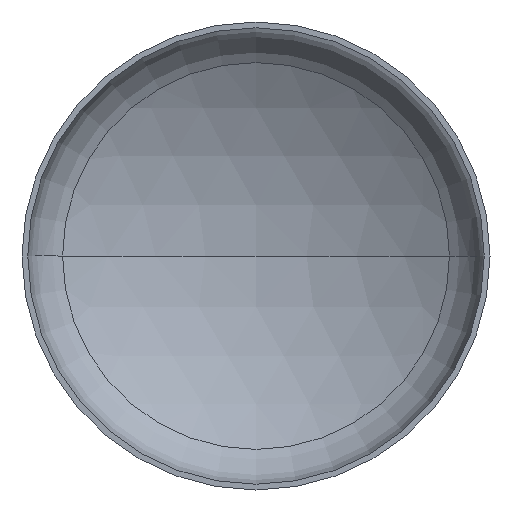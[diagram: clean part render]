
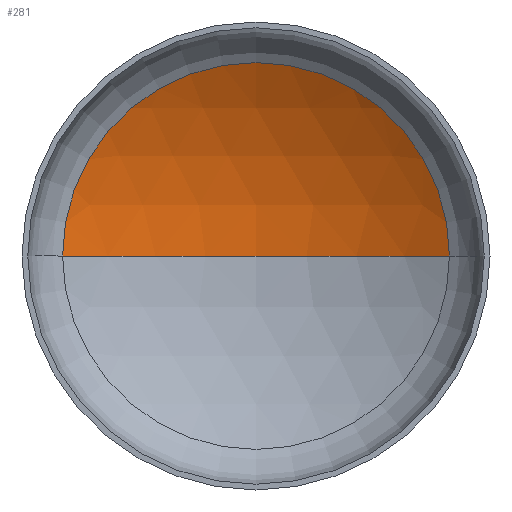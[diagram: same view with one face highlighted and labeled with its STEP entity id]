
A CAD part, front view. The second image highlights one B-rep face of the part: STEP entity #281.
In plain terms, the highlighted spherical face has radius 1040 mm.
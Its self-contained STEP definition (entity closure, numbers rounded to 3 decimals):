
#16 = AXIS2_PLACEMENT_3D ( 'NONE', #38, #123, #125 ) ;
#22 = ORIENTED_EDGE ( 'NONE', *, *, #97, .T. ) ;
#37 = EDGE_LOOP ( 'NONE', ( #139, #107, #22 ) ) ;
#38 = CARTESIAN_POINT ( 'NONE',  ( 0., -664.197, 0. ) ) ;
#46 = AXIS2_PLACEMENT_3D ( 'NONE', #223, #225, #253 ) ;
#59 = AXIS2_PLACEMENT_3D ( 'NONE', #226, #228, #220 ) ;
#62 = AXIS2_PLACEMENT_3D ( 'NONE', #206, #207, #290 ) ;
#97 = EDGE_CURVE ( 'NONE', #115, #140, #278, .T. ) ;
#105 = EDGE_CURVE ( 'NONE', #166, #115, #222, .T. ) ;
#107 = ORIENTED_EDGE ( 'NONE', *, *, #105, .T. ) ;
#115 = VERTEX_POINT ( 'NONE', #321 ) ;
#123 = DIRECTION ( 'NONE',  ( 0., 0., 1. ) ) ;
#125 = DIRECTION ( 'NONE',  ( 1., 0., 0. ) ) ;
#139 = ORIENTED_EDGE ( 'NONE', *, *, #369, .F. ) ;
#140 = VERTEX_POINT ( 'NONE', #203 ) ;
#166 = VERTEX_POINT ( 'NONE', #175 ) ;
#175 = CARTESIAN_POINT ( 'NONE',  ( 0., 375.803, 0. ) ) ;
#203 = CARTESIAN_POINT ( 'NONE',  ( -537.333, 226.237, 0. ) ) ;
#206 = CARTESIAN_POINT ( 'NONE',  ( 0., 226.237, 0. ) ) ;
#207 = DIRECTION ( 'NONE',  ( 0., -1., 0. ) ) ;
#220 = DIRECTION ( 'NONE',  ( -1., 0., 0. ) ) ;
#222 = CIRCLE ( 'NONE', #59, 1040. ) ;
#223 = CARTESIAN_POINT ( 'NONE',  ( 0., -664.197, 0. ) ) ;
#225 = DIRECTION ( 'NONE',  ( 0., 0., -1. ) ) ;
#226 = CARTESIAN_POINT ( 'NONE',  ( 0., -664.197, 0. ) ) ;
#228 = DIRECTION ( 'NONE',  ( 0., 0., -1. ) ) ;
#253 = DIRECTION ( 'NONE',  ( -1., 0., 0. ) ) ;
#264 = FACE_OUTER_BOUND ( 'NONE', #37, .T. ) ;
#278 = CIRCLE ( 'NONE', #62, 537.333 ) ;
#281 = ADVANCED_FACE ( 'NONE', ( #264 ), #378, .F. ) ;
#290 = DIRECTION ( 'NONE',  ( 1., 0., 0. ) ) ;
#321 = CARTESIAN_POINT ( 'NONE',  ( 537.333, 226.237, 0. ) ) ;
#369 = EDGE_CURVE ( 'NONE', #166, #140, #406, .T. ) ;
#378 = SPHERICAL_SURFACE ( 'NONE', #46, 1040. ) ;
#406 = CIRCLE ( 'NONE', #16, 1040. ) ;
